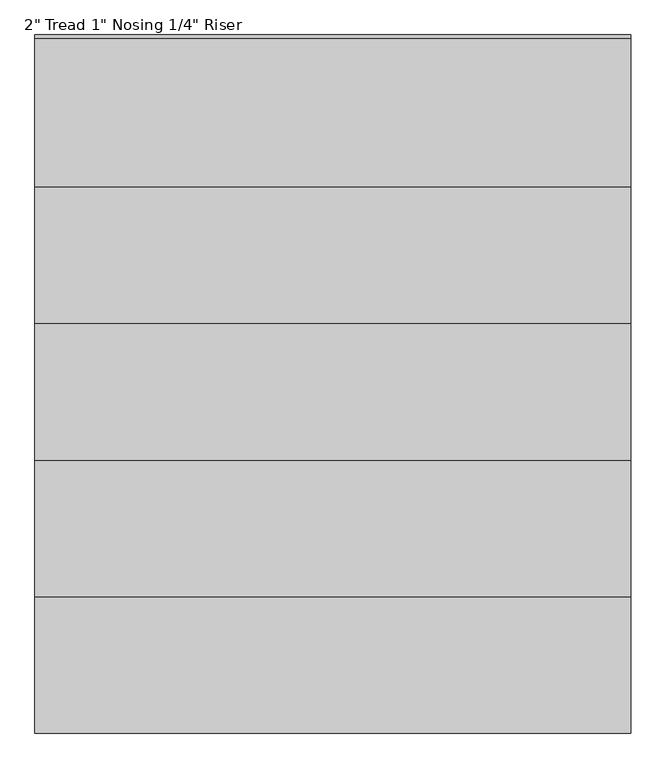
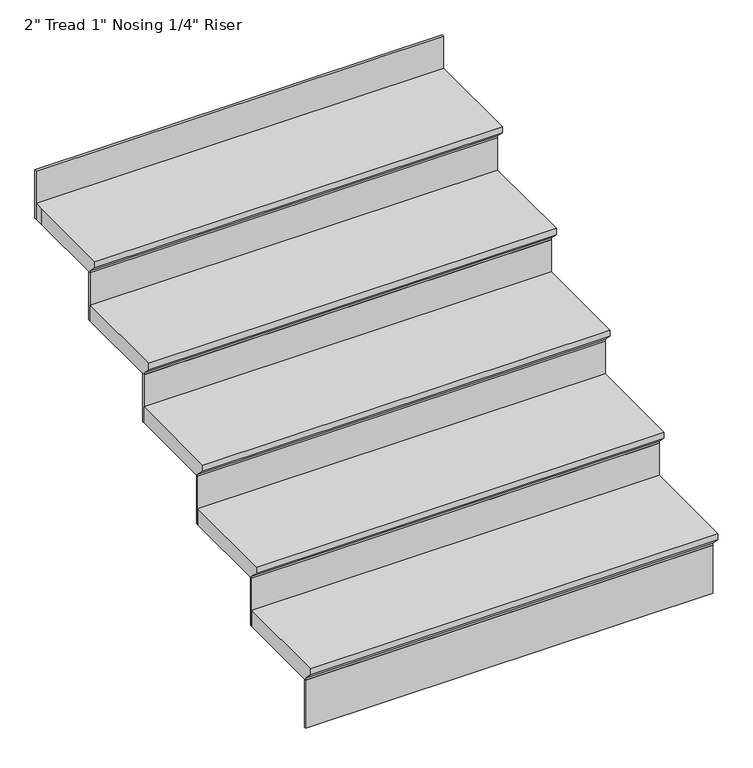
"""IFC4 building model written with IfcOpenShell, lengths in millimetres: stair flight geometry."""

from ifc_helpers import new_model, si_unit, origin, place, context, project, spatial, faceted_brep, source, transform, mapped, element, save


def stair_flight_2a97f9d7(model_context):
    return source(origin(), model_context, "Body", "Brep", [
        faceted_brep([(-17871.7273699, -13660.6253362, 1962.15), (-17871.7273699, -13660.6253362, 1981.2), (-19090.9273699, -13660.6253362, 1981.2), (-19090.9273699, -13660.6253362, 1962.15), (-17871.7273699, -13635.2253362, 1936.75), (-19090.9273699, -13635.2253362, 1936.75), (-17871.7273699, -13355.8253362, 1981.2), (-19090.9273699, -13355.8253362, 1981.2), (-19090.9273699, -13635.2253362, 1930.4), (-19090.9273699, -13355.8253362, 1930.4), (-17871.7273699, -13355.8253362, 1930.4), (-17871.7273699, -13635.2253362, 1930.4)], [[[0, 1, 2, 3]], [[4, 0, 3, 5]], [[2, 1, 6, 7]], [[8, 9, 10, 11]], [[2, 7, 9, 8, 5, 3]], [[8, 11, 4, 5]], [[6, 1, 0, 4, 11, 10]], [[7, 6, 10, 9]]]),
        faceted_brep([(-17871.7273699, -13635.2253362, 1930.4), (-17871.7273699, -13635.2253362, 1778.0), (-17871.7273699, -13628.8753362, 1778.0), (-17871.7273699, -13628.8753362, 1930.4), (-19090.9273699, -13635.2253362, 1930.4), (-19090.9273699, -13628.8753362, 1930.4), (-19090.9273699, -13628.8753362, 1778.0), (-19090.9273699, -13635.2253362, 1778.0)], [[[0, 1, 2, 3]], [[4, 5, 6, 7]], [[1, 0, 4, 7]], [[2, 1, 7, 6]], [[3, 2, 6, 5]], [[0, 3, 5, 4]]]),
        faceted_brep([(-17871.7273699, -13355.8253362, 2082.8), (-17871.7273699, -13355.8253362, 1930.4), (-17871.7273699, -13349.4753362, 1930.4), (-17871.7273699, -13349.4753362, 2082.8), (-19090.9273699, -13355.8253362, 2082.8), (-19090.9273699, -13349.4753362, 2082.8), (-19090.9273699, -13349.4753362, 1930.4), (-19090.9273699, -13355.8253362, 1930.4)], [[[0, 1, 2, 3]], [[4, 5, 6, 7]], [[1, 0, 4, 7]], [[2, 1, 7, 6]], [[3, 2, 6, 5]], [[0, 3, 5, 4]]]),
        faceted_brep([(-19090.9273699, -13381.2253362, 2133.6), (-17871.7273699, -13381.2253362, 2133.6), (-17871.7273699, -13076.4253362, 2133.6), (-19090.9273699, -13076.4253362, 2133.6), (-19090.9273699, -13355.8253362, 2082.8), (-19090.9273699, -13076.4253362, 2082.8), (-17871.7273699, -13076.4253362, 2082.8), (-17871.7273699, -13355.8253362, 2082.8), (-19090.9273699, -13355.8253362, 2089.15), (-19090.9273699, -13381.2253362, 2114.55), (-17871.7273699, -13355.8253362, 2089.15), (-17871.7273699, -13381.2253362, 2114.55)], [[[0, 1, 2, 3]], [[4, 5, 6, 7]], [[0, 3, 5, 4, 8, 9]], [[4, 7, 10, 8]], [[2, 1, 11, 10, 7, 6]], [[3, 2, 6, 5]], [[11, 1, 0, 9]], [[10, 11, 9, 8]]]),
        faceted_brep([(-17871.7273699, -13076.4253362, 2235.2), (-17871.7273699, -13076.4253362, 2082.8), (-17871.7273699, -13070.0753362, 2082.8), (-17871.7273699, -13070.0753362, 2235.2), (-19090.9273699, -13076.4253362, 2235.2), (-19090.9273699, -13070.0753362, 2235.2), (-19090.9273699, -13070.0753362, 2082.8), (-19090.9273699, -13076.4253362, 2082.8)], [[[0, 1, 2, 3]], [[4, 5, 6, 7]], [[1, 0, 4, 7]], [[2, 1, 7, 6]], [[3, 2, 6, 5]], [[0, 3, 5, 4]]]),
        faceted_brep([(-19090.9273699, -13101.8253362, 2286.0), (-17871.7273699, -13101.8253362, 2286.0), (-17871.7273699, -12797.0253362, 2286.0), (-19090.9273699, -12797.0253362, 2286.0), (-19090.9273699, -13076.4253362, 2235.2), (-19090.9273699, -12797.0253362, 2235.2), (-17871.7273699, -12797.0253362, 2235.2), (-17871.7273699, -13076.4253362, 2235.2), (-19090.9273699, -13076.4253362, 2241.55), (-19090.9273699, -13101.8253362, 2266.95), (-17871.7273699, -13076.4253362, 2241.55), (-17871.7273699, -13101.8253362, 2266.95)], [[[0, 1, 2, 3]], [[4, 5, 6, 7]], [[0, 3, 5, 4, 8, 9]], [[4, 7, 10, 8]], [[2, 1, 11, 10, 7, 6]], [[3, 2, 6, 5]], [[11, 1, 0, 9]], [[10, 11, 9, 8]]]),
        faceted_brep([(-17871.7273699, -12797.0253362, 2387.6), (-17871.7273699, -12797.0253362, 2235.2), (-17871.7273699, -12790.6753362, 2235.2), (-17871.7273699, -12790.6753362, 2387.6), (-19090.9273699, -12797.0253362, 2387.6), (-19090.9273699, -12790.6753362, 2387.6), (-19090.9273699, -12790.6753362, 2235.2), (-19090.9273699, -12797.0253362, 2235.2)], [[[0, 1, 2, 3]], [[4, 5, 6, 7]], [[1, 0, 4, 7]], [[2, 1, 7, 6]], [[3, 2, 6, 5]], [[0, 3, 5, 4]]]),
        faceted_brep([(-19090.9273699, -12822.4253362, 2438.4), (-17871.7273699, -12822.4253362, 2438.4), (-17871.7273699, -12517.6253362, 2438.4), (-19090.9273699, -12517.6253362, 2438.4), (-19090.9273699, -12797.0253362, 2387.6), (-19090.9273699, -12517.6253362, 2387.6), (-17871.7273699, -12517.6253362, 2387.6), (-17871.7273699, -12797.0253362, 2387.6), (-19090.9273699, -12797.0253362, 2393.95), (-19090.9273699, -12822.4253362, 2419.35), (-17871.7273699, -12797.0253362, 2393.95), (-17871.7273699, -12822.4253362, 2419.35)], [[[0, 1, 2, 3]], [[4, 5, 6, 7]], [[0, 3, 5, 4, 8, 9]], [[4, 7, 10, 8]], [[2, 1, 11, 10, 7, 6]], [[3, 2, 6, 5]], [[11, 1, 0, 9]], [[10, 11, 9, 8]]]),
        faceted_brep([(-17871.7273699, -12238.2253362, 2692.4), (-17871.7273699, -12238.2253362, 2540.0), (-17871.7273699, -12231.8753362, 2540.0), (-17871.7273699, -12231.8753362, 2692.4), (-19090.9273699, -12238.2253362, 2692.4), (-19090.9273699, -12231.8753362, 2692.4), (-19090.9273699, -12231.8753362, 2540.0), (-19090.9273699, -12238.2253362, 2540.0)], [[[0, 1, 2, 3]], [[4, 5, 6, 7]], [[1, 0, 4, 7]], [[2, 1, 7, 6]], [[3, 2, 6, 5]], [[0, 3, 5, 4]]]),
        faceted_brep([(-17871.7273699, -12517.6253362, 2540.0), (-17871.7273699, -12517.6253362, 2387.6), (-17871.7273699, -12511.2753362, 2387.6), (-17871.7273699, -12511.2753362, 2540.0), (-19090.9273699, -12517.6253362, 2540.0), (-19090.9273699, -12511.2753362, 2540.0), (-19090.9273699, -12511.2753362, 2387.6), (-19090.9273699, -12517.6253362, 2387.6)], [[[0, 1, 2, 3]], [[4, 5, 6, 7]], [[1, 0, 4, 7]], [[2, 1, 7, 6]], [[3, 2, 6, 5]], [[0, 3, 5, 4]]]),
        faceted_brep([(-19090.9273699, -12238.2253362, 2590.8), (-19090.9273699, -12263.6253362, 2590.8), (-19090.9273699, -12543.0253362, 2590.8), (-17871.7273699, -12543.0253362, 2590.8), (-17871.7273699, -12263.6253362, 2590.8), (-17871.7273699, -12238.2253362, 2590.8), (-19090.9273699, -12263.6253362, 2540.0), (-19090.9273699, -12238.2253362, 2540.0), (-17871.7273699, -12238.2253362, 2540.0), (-17871.7273699, -12263.6253362, 2540.0), (-17871.7273699, -12517.6253362, 2540.0), (-19090.9273699, -12517.6253362, 2540.0), (-19090.9273699, -12517.6253362, 2546.35), (-19090.9273699, -12543.0253362, 2571.75), (-17871.7273699, -12517.6253362, 2546.35), (-17871.7273699, -12543.0253362, 2571.75)], [[[0, 1, 2, 3, 4, 5]], [[6, 7, 8, 9, 10, 11]], [[1, 0, 7, 6]], [[2, 1, 6, 11, 12, 13]], [[11, 10, 14, 12]], [[4, 3, 15, 14, 10, 9]], [[5, 4, 9, 8]], [[0, 5, 8, 7]], [[15, 3, 2, 13]], [[14, 15, 13, 12]]]),
    ])


if __name__ == "__main__":
    model = new_model("IFC4")
    model_context = context("Model", 3, world=origin())
    ifc_project = project(units=[si_unit("LENGTHUNIT", "METRE", prefix="MILLI")], contexts=[model_context])
    site = spatial("IfcSite", under=ifc_project)
    building = spatial("IfcBuilding", under=site)
    placement = place(None, origin())
    stair_flight_shape = stair_flight_2a97f9d7(model_context)
    element("IfcStairFlight", 1, ObjectType="2\" Tread 1\" Nosing 1/4\" Riser", at=placement, inside=building, context=model_context, shape_type="MappedRepresentation", body=[
        mapped(stair_flight_shape, transform((0.0, 0.0, 0.0), x_axis=(1.0, 0.0, 0.0), y_axis=(0.0, 1.0, 0.0), z_axis=(0.0, 0.0, 1.0))),
    ])
    save(model, "model.ifc")
